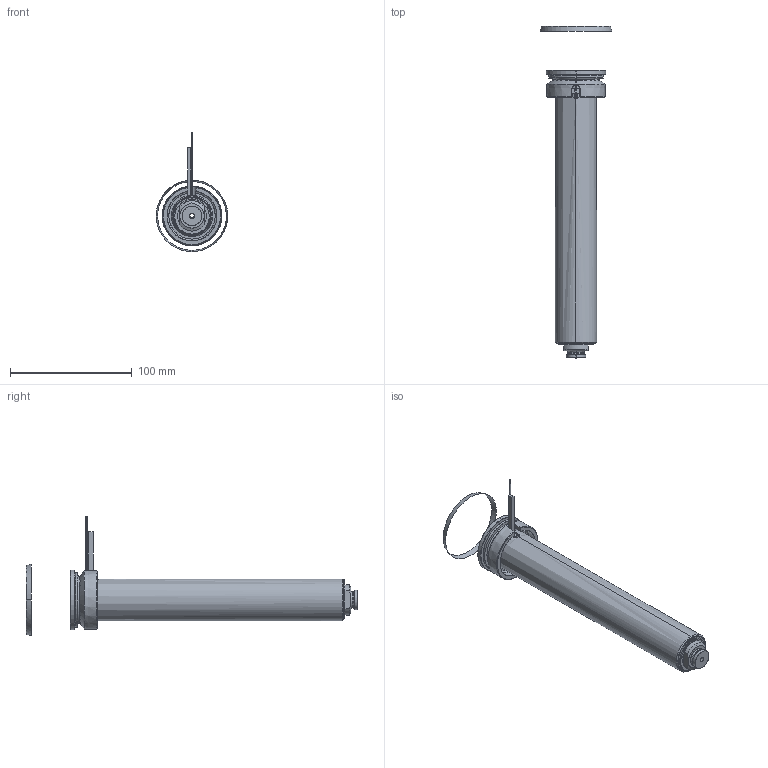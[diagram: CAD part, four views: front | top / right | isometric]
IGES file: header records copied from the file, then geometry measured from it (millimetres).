
Start section: SolidWorks IGES file using analytic representation for surfaces
Global section: file name: C:\Documents and Settings\ws-20\Desktop\TEMPORANEA\UGBE5005-S-A-3 [Ød-3.5 P-0 ØC-12].IGS; native system: SolidWorks 2012; preprocessor: SolidWorks 2012; author: ws-20; date: 120306.150346; units: millimetre
Bounding box: 58.79 x 272.44 x 98.01 mm (x, y, z)
Surface area: 88575.2 mm2 (no closed solid volume)
Topology: 0 solids, 0 shells, 110 faces, 2116 edges, 2116 vertices
Faces by surface type: revolution 67, bspline 43
